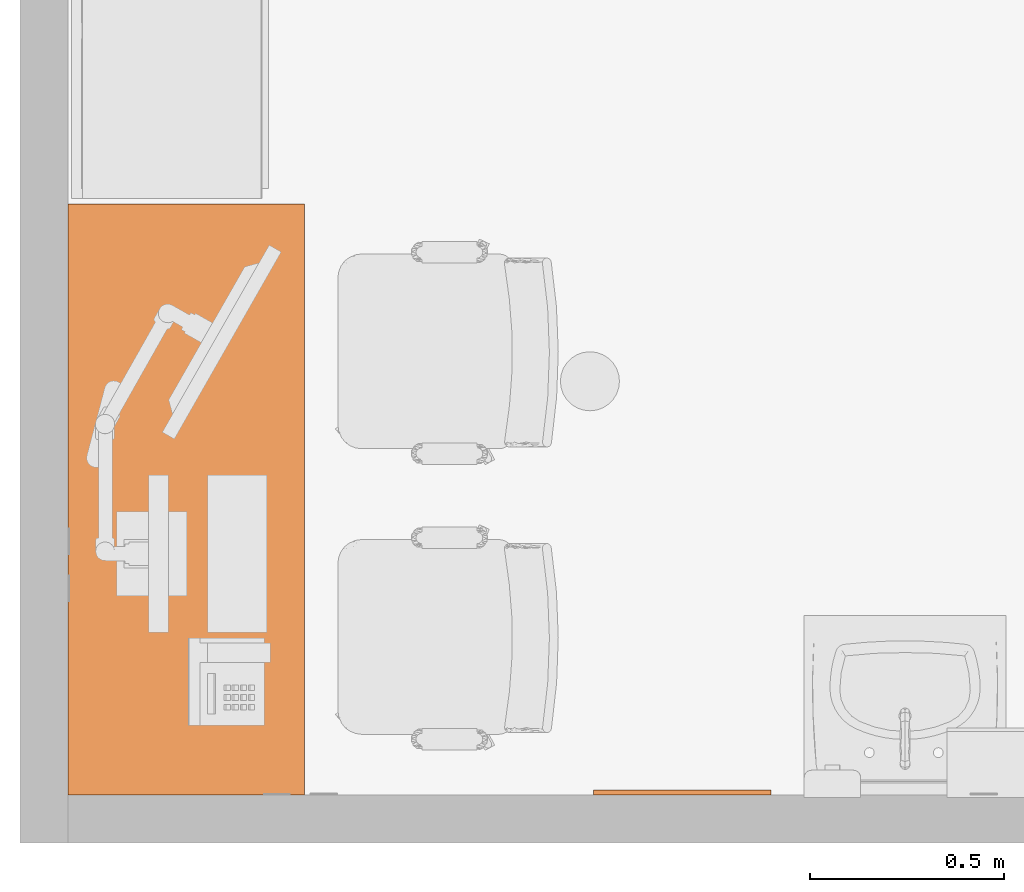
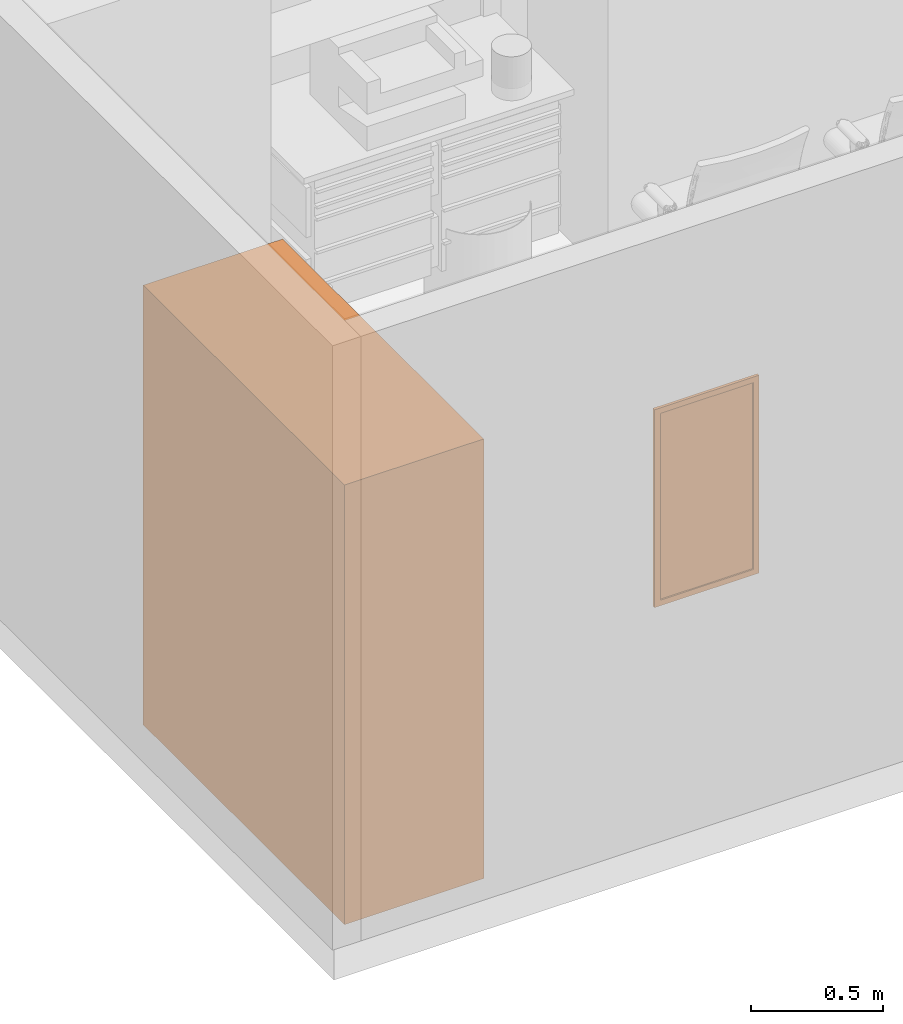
# One storey, part 5 of 15: 2 proxies.
"""IFC2X3 building model written with IfcOpenShell, lengths in feet."""

from ifc_helpers import new_model, entity, si_unit, converted_unit, derived_unit, direction, frame, origin, origin_2d_with_axis, place, context, subcontext, project, spatial, polyline, rectangle, outline, extrude, face_set, surface_model, source, transform, mapped, material, material_list, type_object, type_shapes, element, save


model = new_model("IFC2X3")

# Units and contexts
model_context = context("Model", 3, precision=0.0001, world=origin(), true_north=direction((6.12303176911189e-17, 1.0)))
body_context = subcontext(model_context, "Body", "Model", "MODEL_VIEW")
ifc_project = project(units=[converted_unit("LENGTHUNIT", "FOOT", entity("IfcRatioMeasure", 0.3048), si_unit("LENGTHUNIT", "METRE"), dimensions=[1, 0, 0, 0, 0, 0, 0]), converted_unit("AREAUNIT", "SQUARE FOOT", entity("IfcRatioMeasure", 0.09290304), si_unit("AREAUNIT", "SQUARE_METRE"), dimensions=[2, 0, 0, 0, 0, 0, 0]), converted_unit("VOLUMEUNIT", "CUBIC FOOT", entity("IfcRatioMeasure", 0.028316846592), si_unit("VOLUMEUNIT", "CUBIC_METRE"), dimensions=[3, 0, 0, 0, 0, 0, 0]), converted_unit("PLANEANGLEUNIT", "DEGREE", entity("IfcRatioMeasure", 0.0174532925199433), si_unit("PLANEANGLEUNIT", "RADIAN"), dimensions=[0, 0, 0, 0, 0, 0, 0]), si_unit("MASSUNIT", "GRAM", prefix="KILO"), derived_unit("MASSDENSITYUNIT", [(si_unit("MASSUNIT", "GRAM", prefix="KILO"), 1), (si_unit("LENGTHUNIT", "METRE"), -3)]), si_unit("TIMEUNIT", "SECOND"), si_unit("FREQUENCYUNIT", "HERTZ"), si_unit("THERMODYNAMICTEMPERATUREUNIT", "DEGREE_CELSIUS"), derived_unit("THERMALTRANSMITTANCEUNIT", [(si_unit("MASSUNIT", "GRAM", prefix="KILO"), 1), (si_unit("THERMODYNAMICTEMPERATUREUNIT", "KELVIN"), -1), (si_unit("TIMEUNIT", "SECOND"), -3)]), derived_unit("VOLUMETRICFLOWRATEUNIT", [(si_unit("LENGTHUNIT", "METRE"), 3), (si_unit("TIMEUNIT", "SECOND"), -1)]), si_unit("ELECTRICCURRENTUNIT", "AMPERE"), si_unit("ELECTRICVOLTAGEUNIT", "VOLT"), si_unit("POWERUNIT", "WATT"), si_unit("FORCEUNIT", "NEWTON"), si_unit("ILLUMINANCEUNIT", "LUX"), si_unit("LUMINOUSFLUXUNIT", "LUMEN"), si_unit("LUMINOUSINTENSITYUNIT", "CANDELA"), derived_unit("USERDEFINED", [(si_unit("MASSUNIT", "GRAM", prefix="KILO"), -1), (si_unit("LENGTHUNIT", "METRE"), -2), (si_unit("TIMEUNIT", "SECOND"), 3), (si_unit("LUMINOUSFLUXUNIT", "LUMEN"), 1)]), derived_unit("LINEARVELOCITYUNIT", [(si_unit("LENGTHUNIT", "METRE"), 1), (si_unit("TIMEUNIT", "SECOND"), -1)]), si_unit("PRESSUREUNIT", "PASCAL"), derived_unit("USERDEFINED", [(si_unit("LENGTHUNIT", "METRE"), -2), (si_unit("MASSUNIT", "GRAM", prefix="KILO"), 1), (si_unit("TIMEUNIT", "SECOND"), -2)])], contexts=[model_context])

# Site, building, storey, space
site_placement = place(None, origin())
site = spatial("IfcSite", under=ifc_project, at=site_placement, Name="Default", CompositionType="ELEMENT")
building_placement = place(site_placement, origin())
building = spatial("IfcBuilding", under=site, at=building_placement, Name="EYE CLINIC:  OPTHALMOLOGY AND OPTOMETRY SERVICES (Ch. 233)", CompositionType="ELEMENT")
storey_placement = place(building_placement, origin())
storey = spatial("IfcBuildingStorey", under=building, at=storey_placement, Name="DATUM", CompositionType="ELEMENT", Elevation=0.0)
space_placement = place(storey_placement, origin())
space = spatial("IfcSpace", under=storey, at=space_placement, Name="(OPLV2)", CompositionType="ELEMENT", InteriorOrExteriorSpace="INTERNAL")

# Proxies
ifc_material_1 = material(Name="mirror glass")
ifc_material_2 = material(Name="Stainless Steel")
ifc_material_list_1 = material_list([ifc_material_1, ifc_material_2])
ifc_material_list_2 = material_list([ifc_material_1, ifc_material_2])
building_element_proxy_type_1 = type_object("IfcBuildingElementProxyType", Name="A1066 - Mirror, Float Glass", PredefinedType="NOTDEFINED", material=ifc_material_list_2)
shared_shape_1 = source(origin(), body_context, "Body", "SweptSolid", [
    extrude(rectangle(XDim=1.33333333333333, YDim=0.0208333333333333, at=origin_2d_with_axis()), frame((0.0, 0.0104166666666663, 3.33333333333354), z_axis=(0.0, 0.0, 1.0), x_axis=(-1.0, 0.0, 0.0)), (0.0, 0.0, 1.0), 2.8333333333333),
    extrude(outline(polyline([(-0.75, -1.49999999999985), (0.75, -1.49999999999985), (0.75, 1.49999999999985), (-0.75, 1.49999999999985), (-0.75, -1.49999999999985)]), holes=[polyline([(-0.666666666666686, 1.41666666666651), (0.666666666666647, 1.41666666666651), (0.666666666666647, -1.41666666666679), (-0.666666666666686, -1.41666666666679), (-0.666666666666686, 1.41666666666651)])]), frame((0.0, 0.0, 4.75000000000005), z_axis=(0.0, 1.0, 0.0), x_axis=(1.0, 0.0, 0.0)), (0.0, 0.0, 1.0), 0.0416666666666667),
])
type_shapes(building_element_proxy_type_1, [shared_shape_1])
proxy_1_placement = place(space_placement, frame((340.004352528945, -1.15070764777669, 0.0), z_axis=(0.0, 0.0, 1.0), x_axis=(-1.0, 0.0, 0.0)))
element("IfcBuildingElementProxy", 1, at=proxy_1_placement, inside=space, type_object=building_element_proxy_type_1, material=ifc_material_list_1, Name="A1066 - Mirror, Float Glass:A1066 - Mirror, Float Glass", ObjectType="A1066 - Mirror, Float Glass", context=body_context, shape_type="MappedRepresentation", body=[
    mapped(shared_shape_1, transform((0.0, 0.0, 0.0), scale=1.0)),
])
ifc_material_3 = material(Name="EquipSpace")
building_element_proxy_type_2 = type_object("IfcBuildingElementProxyType", Name="E0214 - Worksurface, with Overhead Cab, Wall Mtd, 60 W (1)", PredefinedType="NOTDEFINED", material=ifc_material_3)
shared_shape_2 = source(origin(), body_context, "Body", "SurfaceModel", [
    surface_model("IfcFaceBasedSurfaceModel", [(2.41666666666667, 0.833333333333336, 2.88682705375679), (2.41666666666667, 0.831483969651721, 2.87277974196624), (2.41666666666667, 0.826061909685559, 2.85968973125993), (2.41666666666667, 0.817436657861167, 2.84844908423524), (2.41666666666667, 0.806196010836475, 2.83982383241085), (2.41666666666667, 0.793106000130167, 2.83440177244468), (2.41666666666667, 0.779058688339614, 2.83255240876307), (2.41666666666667, -0.583333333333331, 2.83255240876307), (2.41666666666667, -0.604901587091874, 2.82971289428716), (2.41666666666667, -0.624999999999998, 2.82138785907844), (2.41666666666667, -0.64225889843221, 2.80814464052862), (2.41666666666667, -0.655502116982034, 2.7908857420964), (2.41666666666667, -0.663827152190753, 2.77078732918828), (2.41666666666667, -0.666666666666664, 2.74921907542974), (2.41666666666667, -0.666666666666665, 2.14505240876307), (2.41666666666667, -0.671635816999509, 2.10730796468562), (2.41666666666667, -0.686204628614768, 2.0721357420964), (2.41666666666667, -0.70938026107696, 2.04193266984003), (2.41666666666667, -0.739583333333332, 2.01875703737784), (2.41666666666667, -0.774755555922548, 2.00418822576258), (2.41666666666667, -0.812499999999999, 1.99921907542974), (2.41666666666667, -0.916666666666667, 1.99921907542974), (2.41666666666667, -0.916666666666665, 2.91588574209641), (2.41666666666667, 0.833333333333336, 2.9158857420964), (2.5, -0.686204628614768, 2.0721357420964), (2.5, -0.671635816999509, 2.10730796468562), (2.5, -0.666666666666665, 2.14505240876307), (2.5, -0.666666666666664, 2.74921907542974), (2.5, -0.663827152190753, 2.77078732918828), (2.5, -0.655502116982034, 2.7908857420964), (2.5, -0.64225889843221, 2.80814464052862), (2.5, -0.624999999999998, 2.82138785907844), (2.5, -0.604901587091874, 2.82971289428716), (2.5, -0.583333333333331, 2.83255240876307), (2.5, 0.779058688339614, 2.83255240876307), (2.5, 0.793106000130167, 2.83440177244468), (2.5, 0.806196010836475, 2.83982383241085), (2.5, 0.817436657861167, 2.84844908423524), (2.5, 0.826061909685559, 2.85968973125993), (2.5, 0.831483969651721, 2.87277974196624), (2.5, 0.833333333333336, 2.88682705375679), (2.5, 0.833333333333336, 2.9158857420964), (2.5, -0.916666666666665, 2.91588574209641), (2.5, -0.916666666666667, 1.99921907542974), (2.5, -0.812499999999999, 1.99921907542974), (2.5, -0.774755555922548, 2.00418822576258), (2.5, -0.739583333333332, 2.01875703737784), (2.5, -0.70938026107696, 2.04193266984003), (-2.41666666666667, -0.686204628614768, 2.0721357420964), (-2.41666666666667, -0.671635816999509, 2.10730796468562), (-2.41666666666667, -0.666666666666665, 2.14505240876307), (-2.41666666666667, -0.666666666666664, 2.74921907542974), (-2.41666666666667, -0.663827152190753, 2.77078732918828), (-2.41666666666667, -0.655502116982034, 2.7908857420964), (-2.41666666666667, -0.64225889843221, 2.80814464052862), (-2.41666666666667, -0.624999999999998, 2.82138785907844), (-2.41666666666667, -0.604901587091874, 2.82971289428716), (-2.41666666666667, -0.583333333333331, 2.83255240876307), (-2.41666666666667, 0.779058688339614, 2.83255240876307), (-2.41666666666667, 0.793106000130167, 2.83440177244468), (-2.41666666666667, 0.806196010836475, 2.83982383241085), (-2.41666666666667, 0.817436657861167, 2.84844908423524), (-2.41666666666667, 0.826061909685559, 2.85968973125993), (-2.41666666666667, 0.831483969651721, 2.87277974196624), (-2.41666666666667, 0.833333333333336, 2.88682705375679), (-2.41666666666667, 0.833333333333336, 2.9158857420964), (-2.41666666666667, -0.916666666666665, 2.91588574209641), (-2.41666666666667, -0.916666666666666, 1.99921907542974), (-2.41666666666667, -0.812499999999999, 1.99921907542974), (-2.41666666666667, -0.774755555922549, 2.00418822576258), (-2.41666666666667, -0.739583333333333, 2.01875703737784), (-2.41666666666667, -0.709380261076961, 2.04193266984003), (-2.5, 0.833333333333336, 2.88682705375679), (-2.5, 0.831483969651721, 2.87277974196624), (-2.5, 0.826061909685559, 2.85968973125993), (-2.5, 0.817436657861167, 2.84844908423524), (-2.5, 0.806196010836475, 2.83982383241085), (-2.5, 0.793106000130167, 2.83440177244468), (-2.5, 0.779058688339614, 2.83255240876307), (-2.5, -0.583333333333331, 2.83255240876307), (-2.5, -0.604901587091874, 2.82971289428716), (-2.5, -0.624999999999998, 2.82138785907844), (-2.5, -0.64225889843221, 2.80814464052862), (-2.5, -0.655502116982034, 2.7908857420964), (-2.5, -0.663827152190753, 2.77078732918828), (-2.5, -0.666666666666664, 2.74921907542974), (-2.5, -0.666666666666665, 2.14505240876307), (-2.5, -0.671635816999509, 2.10730796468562), (-2.5, -0.686204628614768, 2.0721357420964), (-2.5, -0.709380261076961, 2.04193266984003), (-2.5, -0.739583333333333, 2.01875703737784), (-2.5, -0.774755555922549, 2.00418822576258), (-2.5, -0.812499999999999, 1.99921907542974), (-2.5, -0.916666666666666, 1.99921907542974), (-2.5, -0.916666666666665, 2.91588574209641), (-2.5, 0.833333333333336, 2.9158857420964), (2.5, 1.0, 2.99921907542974), (2.5, -0.916666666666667, 2.99921907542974), (2.5, -0.916666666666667, 2.91588574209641), (2.5, 1.0, 2.9158857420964), (-2.5, 1.0, 2.99921907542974), (-2.5, 1.0, 2.9158857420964), (-2.5, -0.916666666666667, 2.91588574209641), (-2.5, -0.916666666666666, 2.99921907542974), (0.0625000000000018, -0.0833333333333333, 4.62161490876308), (0.0625000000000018, -0.0833333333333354, 3.95494824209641), (0.0625000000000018, -0.916666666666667, 3.95494824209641), (0.0625000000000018, -0.916666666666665, 4.62161490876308), (2.41666666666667, -0.0833333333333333, 4.62161490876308), (2.41666666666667, -0.916666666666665, 4.62161490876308), (2.41666666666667, -0.916666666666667, 3.95494824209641), (2.41666666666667, -0.0833333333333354, 3.95494824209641), (2.35416666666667, -0.0833333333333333, 4.62161490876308), (2.35416666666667, -0.803690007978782, 4.62161490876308), (0.121853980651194, -0.803690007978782, 4.62161490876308), (0.121853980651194, -0.0833333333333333, 4.62161490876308), (0.121853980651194, -0.0833333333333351, 4.03828157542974), (2.35416666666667, -0.0833333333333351, 4.03828157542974), (-0.0625000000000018, -0.0833333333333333, 4.62161490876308), (-0.0625000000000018, -0.916666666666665, 4.62161490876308), (-0.0625000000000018, -0.916666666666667, 3.95494824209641), (-0.0625000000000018, -0.0833333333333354, 3.95494824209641), (-2.41666666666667, -0.0833333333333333, 4.62161490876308), (-2.41666666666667, -0.0833333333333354, 3.95494824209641), (-2.41666666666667, -0.916666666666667, 3.95494824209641), (-2.41666666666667, -0.916666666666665, 4.62161490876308), (-0.121853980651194, -0.0833333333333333, 4.62161490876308), (-0.121853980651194, -0.803690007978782, 4.62161490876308), (-2.35416666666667, -0.803690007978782, 4.62161490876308), (-2.35416666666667, -0.0833333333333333, 4.62161490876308), (-2.35416666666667, -0.0833333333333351, 4.03828157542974), (-0.121853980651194, -0.0833333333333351, 4.03828157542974), (-1.28125, 0.0833333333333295, 5.01744824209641), (-1.27983024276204, 0.0833333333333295, 5.00666411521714), (-1.27566772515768, 0.0833333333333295, 4.99661490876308), (-1.26904611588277, 0.0833333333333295, 4.98798545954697), (-1.26041666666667, 0.0833333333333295, 4.98136385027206), (-1.2503674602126, 0.0833333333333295, 4.9772013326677), (-1.23958333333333, 0.0833333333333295, 4.97578157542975), (-1.22879920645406, 0.0833333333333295, 4.9772013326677), (-1.21875, 0.0833333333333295, 4.98136385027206), (-1.21012055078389, 0.0833333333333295, 4.98798545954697), (-1.20349894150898, 0.0833333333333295, 4.99661490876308), (-1.19933642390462, 0.0833333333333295, 5.00666411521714), (-1.19791666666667, 0.0833333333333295, 5.01744824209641), (-1.19933642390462, 0.0833333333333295, 5.02823236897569), (-1.20349894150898, 0.0833333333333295, 5.03828157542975), (-1.21012055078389, 0.0833333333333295, 5.04691102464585), (-1.21875, 0.0833333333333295, 5.05353263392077), (-1.22879920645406, 0.0833333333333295, 5.05769515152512), (-1.23958333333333, 0.0833333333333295, 5.05911490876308), (-1.2503674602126, 0.0833333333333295, 5.05769515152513), (-1.26041666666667, 0.0833333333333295, 5.05353263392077), (-1.26904611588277, 0.0833333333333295, 5.04691102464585), (-1.27566772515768, 0.0833333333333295, 5.03828157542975), (-1.27983024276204, 0.0833333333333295, 5.02823236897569), (-1.28125, 0.109888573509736, 5.01744824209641), (-1.27983024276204, 0.109888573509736, 5.02823236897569), (-1.27566772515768, 0.109888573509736, 5.03828157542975), (-1.26904611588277, 0.109888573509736, 5.04691102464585), (-1.26041666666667, 0.109888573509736, 5.05353263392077), (-1.2503674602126, 0.109888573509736, 5.05769515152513), (-1.23958333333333, 0.109888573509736, 5.05911490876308), (-1.22879920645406, 0.109888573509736, 5.05769515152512), (-1.21875, 0.109888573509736, 5.05353263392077), (-1.21012055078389, 0.109888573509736, 5.04691102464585), (-1.20349894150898, 0.109888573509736, 5.03828157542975), (-1.19933642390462, 0.109888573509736, 5.02823236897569), (-1.19791666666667, 0.109888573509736, 5.01744824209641), (-1.19933642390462, 0.109888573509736, 5.00666411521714), (-1.20349894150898, 0.109888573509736, 4.99661490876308), (-1.21012055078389, 0.109888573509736, 4.98798545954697), (-1.21875, 0.109888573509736, 4.98136385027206), (-1.22879920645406, 0.109888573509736, 4.9772013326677), (-1.23958333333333, 0.109888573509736, 4.97578157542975), (-1.2503674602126, 0.109888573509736, 4.9772013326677), (-1.26041666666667, 0.109888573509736, 4.98136385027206), (-1.26904611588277, 0.109888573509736, 4.98798545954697), (-1.27566772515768, 0.109888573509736, 4.99661490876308), (-1.27983024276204, 0.109888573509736, 5.00666411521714), (1.28125, 0.0833333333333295, 5.01744824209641), (1.27983024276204, 0.0833333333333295, 5.02823236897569), (1.27566772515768, 0.0833333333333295, 5.03828157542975), (1.26904611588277, 0.0833333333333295, 5.04691102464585), (1.26041666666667, 0.0833333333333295, 5.05353263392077), (1.2503674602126, 0.0833333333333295, 5.05769515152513), (1.23958333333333, 0.0833333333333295, 5.05911490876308), (1.22879920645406, 0.0833333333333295, 5.05769515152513), (1.21875, 0.0833333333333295, 5.05353263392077), (1.21012055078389, 0.0833333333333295, 5.04691102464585), (1.20349894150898, 0.0833333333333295, 5.03828157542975), (1.19933642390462, 0.0833333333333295, 5.02823236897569), (1.19791666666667, 0.0833333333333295, 5.01744824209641), (1.19933642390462, 0.0833333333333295, 5.00666411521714), (1.20349894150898, 0.0833333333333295, 4.99661490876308), (1.21012055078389, 0.0833333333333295, 4.98798545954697), (1.21875, 0.0833333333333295, 4.98136385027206), (1.22879920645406, 0.0833333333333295, 4.9772013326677), (1.23958333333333, 0.0833333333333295, 4.97578157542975), (1.2503674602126, 0.0833333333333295, 4.9772013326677), (1.26041666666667, 0.0833333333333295, 4.98136385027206), (1.26904611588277, 0.0833333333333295, 4.98798545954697), (1.27566772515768, 0.0833333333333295, 4.99661490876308), (1.27983024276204, 0.0833333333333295, 5.00666411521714), (1.28125, 0.109888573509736, 5.01744824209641), (1.27983024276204, 0.109888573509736, 5.00666411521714), (1.27566772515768, 0.109888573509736, 4.99661490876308), (1.26904611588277, 0.109888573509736, 4.98798545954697), (1.26041666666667, 0.109888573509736, 4.98136385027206), (1.2503674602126, 0.109888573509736, 4.9772013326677), (1.23958333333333, 0.109888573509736, 4.97578157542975), (1.22879920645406, 0.109888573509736, 4.9772013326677), (1.21875, 0.109888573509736, 4.98136385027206), (1.21012055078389, 0.109888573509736, 4.98798545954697), (1.20349894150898, 0.109888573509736, 4.99661490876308), (1.19933642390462, 0.109888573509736, 5.00666411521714), (1.19791666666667, 0.109888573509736, 5.01744824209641), (1.19933642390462, 0.109888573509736, 5.02823236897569), (1.20349894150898, 0.109888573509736, 5.03828157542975), (1.21012055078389, 0.109888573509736, 5.04691102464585), (1.21875, 0.109888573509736, 5.05353263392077), (1.22879920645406, 0.109888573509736, 5.05769515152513), (1.23958333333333, 0.109888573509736, 5.05911490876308), (1.2503674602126, 0.109888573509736, 5.05769515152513), (1.26041666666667, 0.109888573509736, 5.05353263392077), (1.26904611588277, 0.109888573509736, 5.04691102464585), (1.27566772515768, 0.109888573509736, 5.03828157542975), (1.27983024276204, 0.109888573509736, 5.02823236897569), (2.5, -1.0, 6.66666666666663), (2.5, -0.916666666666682, 6.66666666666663), (2.35416666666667, -0.916666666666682, 6.66666666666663), (2.35416666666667, -1.0, 6.66666666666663), (2.5, -1.0, 0.0), (2.35416666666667, -1.0, 0.0), (2.35416666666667, -0.916666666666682, 0.0), (2.5, -0.916666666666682, 0.0), (0.0729166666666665, -1.0, 6.66666666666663), (0.0729166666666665, -0.916666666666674, 6.66666666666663), (-0.0729166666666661, -0.916666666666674, 6.66666666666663), (-0.0729166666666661, -1.0, 6.66666666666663), (0.0729166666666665, -1.0, 0.0), (-0.0729166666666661, -1.0, 0.0), (-0.0729166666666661, -0.916666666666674, 0.0), (0.0729166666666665, -0.916666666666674, 0.0), (2.41666666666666, -0.916666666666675, 6.37499999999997), (2.41666666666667, 0.0833333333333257, 6.37499999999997), (0.0624999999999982, 0.0833333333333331, 6.37499999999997), (0.0624999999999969, -0.916666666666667, 6.37499999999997), (2.41666666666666, -0.916666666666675, 4.95494824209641), (0.0624999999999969, -0.916666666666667, 4.95494824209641), (0.0624999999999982, 0.0833333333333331, 4.95494824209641), (2.41666666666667, 0.0833333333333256, 4.95494824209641), (-0.0625000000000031, -0.916666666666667, 6.37499999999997), (-0.0625, 0.0833333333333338, 6.37499999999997), (-2.41666666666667, 0.0833333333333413, 6.37499999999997), (-2.41666666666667, -0.916666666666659, 6.37499999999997), (-0.0625000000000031, -0.916666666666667, 4.95494824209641), (-2.41666666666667, -0.916666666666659, 4.95494824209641), (-2.41666666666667, 0.0833333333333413, 4.95494824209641), (-0.0625, 0.0833333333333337, 4.95494824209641), (-2.35416666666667, -1.0, 6.66666666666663), (-2.35416666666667, -0.916666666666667, 6.66666666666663), (-2.5, -0.916666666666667, 6.66666666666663), (-2.5, -1.0, 6.66666666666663), (-2.35416666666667, -1.0, 0.0), (-2.5, -1.0, 0.0), (-2.5, -0.916666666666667, 0.0), (-2.35416666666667, -0.916666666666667, 0.0)], [face_set([[[0, 1, 2, 3, 4, 5, 6, 7, 8, 9, 10, 11, 12, 13, 14, 15, 16, 17, 18, 19, 20, 21, 22, 23]], [[24, 25, 26, 27, 28, 29, 30, 31, 32, 33, 34, 35, 36, 37, 38, 39, 40, 41, 42, 43, 44, 45, 46, 47]], [[0, 23, 41, 40]], [[23, 22, 42, 41]], [[22, 21, 43, 42]], [[21, 20, 44, 43]], [[15, 14, 26, 25]], [[16, 15, 25, 24]], [[17, 16, 24, 47]], [[47, 46, 18, 17]], [[18, 46, 45, 19]], [[19, 45, 44, 20]], [[14, 13, 27, 26]], [[8, 7, 33, 32]], [[9, 8, 32, 31]], [[30, 10, 9, 31]], [[27, 13, 12, 28]], [[28, 12, 11, 29]], [[29, 11, 10, 30]], [[7, 6, 34, 33]], [[1, 0, 40, 39]], [[2, 1, 39, 38]], [[2, 38, 37, 3]], [[4, 36, 35, 5]], [[5, 35, 34, 6]], [[3, 37, 36, 4]]]), face_set([[[48, 49, 50, 51, 52, 53, 54, 55, 56, 57, 58, 59, 60, 61, 62, 63, 64, 65, 66, 67, 68, 69, 70, 71]], [[72, 73, 74, 75, 76, 77, 78, 79, 80, 81, 82, 83, 84, 85, 86, 87, 88, 89, 90, 91, 92, 93, 94, 95]], [[65, 64, 72, 95]], [[66, 65, 95, 94]], [[67, 66, 94, 93]], [[68, 67, 93, 92]], [[69, 68, 92, 91]], [[70, 69, 91, 90]], [[71, 70, 90, 89]], [[48, 71, 89, 88]], [[49, 48, 88, 87]], [[50, 49, 87, 86]], [[51, 50, 86, 85]], [[52, 51, 85, 84]], [[53, 52, 84, 83]], [[82, 54, 53, 83]], [[56, 55, 81, 80]], [[57, 56, 80, 79]], [[81, 55, 54, 82]], [[58, 57, 79, 78]], [[59, 58, 78, 77]], [[61, 60, 76, 75]], [[60, 59, 77, 76]], [[62, 74, 73, 63]], [[63, 73, 72, 64]], [[61, 75, 74, 62]]]), face_set([[[96, 97, 98, 99]], [[100, 101, 102, 103]], [[97, 96, 100, 103]], [[98, 97, 103, 102]], [[99, 98, 102, 101]], [[96, 99, 101, 100]]]), face_set([[[104, 105, 106, 107]], [[108, 109, 110, 111]], [[104, 107, 109, 108, 112, 113, 114, 115]], [[107, 106, 110, 109]], [[106, 105, 111, 110]], [[105, 104, 115, 116, 117, 112, 108, 111]], [[114, 116, 115]], [[117, 113, 112]], [[116, 114, 113, 117]]]), face_set([[[118, 119, 120, 121]], [[122, 123, 124, 125]], [[119, 118, 126, 127, 128, 129, 122, 125]], [[120, 119, 125, 124]], [[121, 120, 124, 123]], [[118, 121, 123, 122, 129, 130, 131, 126]], [[131, 127, 126]], [[128, 130, 129]], [[127, 131, 130, 128]]]), face_set([[[132, 133, 134, 135, 136, 137, 138, 139, 140, 141, 142, 143, 144, 145, 146, 147, 148, 149, 150, 151, 152, 153, 154, 155]], [[156, 157, 158, 159, 160, 161, 162, 163, 164, 165, 166, 167, 168, 169, 170, 171, 172, 173, 174, 175, 176, 177, 178, 179]], [[156, 179, 133, 132]], [[179, 178, 134, 133]], [[177, 176, 136, 135]], [[178, 177, 135, 134]], [[176, 175, 137, 136]], [[138, 137, 175, 174]], [[174, 173, 139, 138]], [[173, 172, 140, 139]], [[171, 170, 142, 141]], [[172, 171, 141, 140]], [[170, 169, 143, 142]], [[144, 143, 169, 168]], [[168, 167, 145, 144]], [[167, 166, 146, 145]], [[165, 164, 148, 147]], [[166, 165, 147, 146]], [[164, 163, 149, 148]], [[150, 149, 163, 162]], [[162, 161, 151, 150]], [[161, 160, 152, 151]], [[159, 158, 154, 153]], [[160, 159, 153, 152]], [[158, 157, 155, 154]], [[132, 155, 157, 156]]]), face_set([[[180, 181, 182, 183, 184, 185, 186, 187, 188, 189, 190, 191, 192, 193, 194, 195, 196, 197, 198, 199, 200, 201, 202, 203]], [[204, 205, 206, 207, 208, 209, 210, 211, 212, 213, 214, 215, 216, 217, 218, 219, 220, 221, 222, 223, 224, 225, 226, 227]], [[216, 215, 193, 192]], [[215, 214, 194, 193]], [[213, 212, 196, 195]], [[214, 213, 195, 194]], [[212, 211, 197, 196]], [[198, 197, 211, 210]], [[210, 209, 199, 198]], [[209, 208, 200, 199]], [[207, 206, 202, 201]], [[208, 207, 201, 200]], [[206, 205, 203, 202]], [[180, 203, 205, 204]], [[204, 227, 181, 180]], [[227, 226, 182, 181]], [[225, 224, 184, 183]], [[226, 225, 183, 182]], [[224, 223, 185, 184]], [[186, 185, 223, 222]], [[222, 221, 187, 186]], [[221, 220, 188, 187]], [[219, 218, 190, 189]], [[220, 219, 189, 188]], [[218, 217, 191, 190]], [[192, 191, 217, 216]]]), face_set([[[228, 229, 230, 231]], [[232, 233, 234, 235]], [[229, 228, 232, 235]], [[230, 229, 235, 234]], [[231, 230, 234, 233]], [[228, 231, 233, 232]]]), face_set([[[236, 237, 238, 239]], [[240, 241, 242, 243]], [[237, 236, 240, 243]], [[238, 237, 243, 242]], [[239, 238, 242, 241]], [[236, 239, 241, 240]]]), face_set([[[244, 245, 246, 247]], [[248, 249, 250, 251]], [[245, 244, 248, 251]], [[246, 245, 251, 250]], [[247, 246, 250, 249]], [[244, 247, 249, 248]]]), face_set([[[252, 253, 254, 255]], [[256, 257, 258, 259]], [[253, 252, 256, 259]], [[254, 253, 259, 258]], [[255, 254, 258, 257]], [[252, 255, 257, 256]]]), face_set([[[260, 261, 262, 263]], [[264, 265, 266, 267]], [[261, 260, 264, 267]], [[262, 261, 267, 266]], [[263, 262, 266, 265]], [[260, 263, 265, 264]]])]),
    surface_model("IfcFaceBasedSurfaceModel", [(-2.5, 1.0, 6.66666666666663), (-2.5, 0.0, 6.66666666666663), (-2.5, -1.0, 6.66666666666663), (2.5, -1.0, 6.66666666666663), (2.5, 1.0, 6.66666666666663), (-2.5, 1.0, 0.0), (2.5, 1.0, 0.0), (2.5, -1.0, 0.0), (-2.5, -1.0, 0.0), (-2.5, 0.0, 0.0), (-0.121853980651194, -0.803690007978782, 4.62161490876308), (-0.121853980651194, -0.0833333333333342, 4.03828157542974), (-0.121853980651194, -0.0833333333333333, 4.62161490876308), (-2.35416666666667, -0.803690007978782, 4.62161490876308), (-2.35416666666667, -0.0833333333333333, 4.62161490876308), (-2.35416666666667, -0.0833333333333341, 4.03828157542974), (0.121853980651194, -0.803690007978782, 4.62161490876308), (0.121853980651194, -0.0833333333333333, 4.62161490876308), (0.121853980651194, -0.0833333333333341, 4.03828157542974), (2.35416666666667, -0.803690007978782, 4.62161490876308), (2.35416666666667, -0.0833333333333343, 4.03828157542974), (2.35416666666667, -0.0833333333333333, 4.62161490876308)], [face_set([[[0, 1, 2, 3, 4]], [[5, 6, 7, 8, 9]], [[1, 0, 5, 9]], [[2, 1, 9, 8]], [[3, 2, 8, 7]], [[4, 3, 7, 6]], [[0, 4, 6, 5]]]), face_set([[[10, 11, 12]], [[13, 14, 15]], [[10, 11, 15, 13]], [[11, 15, 14, 12]], [[12, 14, 13, 10]]]), face_set([[[16, 17, 18]], [[19, 20, 21]], [[18, 16, 19, 20]], [[17, 21, 20, 18]], [[16, 19, 21, 17]]])]),
])
type_shapes(building_element_proxy_type_2, [shared_shape_2])
proxy_2_placement = place(space_placement, frame((335.806435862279, 1.30762568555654, 0.0), z_axis=(0.0, 0.0, 1.0), x_axis=(0.0, -1.0, 0.0)))
element("IfcBuildingElementProxy", 2, at=proxy_2_placement, inside=space, type_object=building_element_proxy_type_2, material=ifc_material_3, Name="E0214 - Worksurface, with Overhead Cab, Wall Mtd, 60 W:E0214 - Worksurface, with Overhead Cab, Wall Mtd, 60 W (1)", ObjectType="E0214 - Worksurface, with Overhead Cab, Wall Mtd, 60 W (1)", context=body_context, shape_type="MappedRepresentation", body=[
    mapped(shared_shape_2, transform((0.0, 0.0, 0.0), scale=1.0)),
])

save(model, "model.ifc")
